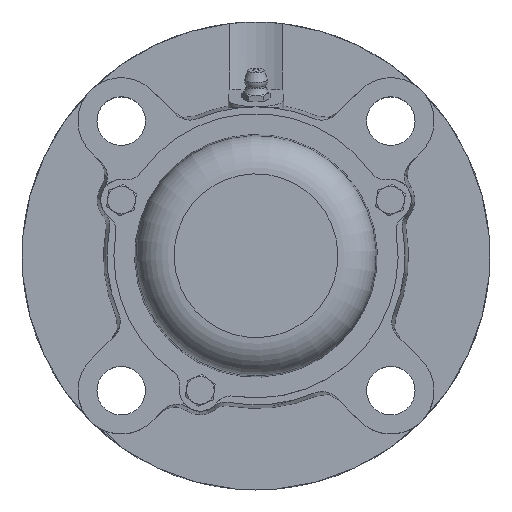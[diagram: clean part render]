
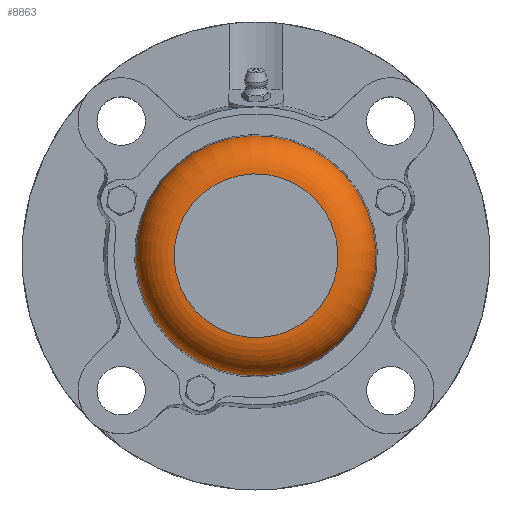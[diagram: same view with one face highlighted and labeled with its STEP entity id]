
A CAD part, top view. The second image highlights one B-rep face of the part: STEP entity #8863.
In plain terms, the highlighted toroidal (fillet/blend) face has major radius 23.628 mm and minor radius 11 mm.
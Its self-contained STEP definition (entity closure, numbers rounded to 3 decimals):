
#8836=CARTESIAN_POINT('',(0.0,0.0,12.));
#8837=DIRECTION('',(0.0,0.0,-1.0));
#8838=DIRECTION('',(-1.0,0.0,0.0));
#8839=AXIS2_PLACEMENT_3D('',#8836,#8837,#8838);
#8840=TOROIDAL_SURFACE('',#8839,23.628,11.0);
#8841=CARTESIAN_POINT('',(-23.628,0.0,23.));
#8842=VERTEX_POINT('',#8841);
#8843=CARTESIAN_POINT('',(0.0,0.0,23.));
#8844=DIRECTION('',(0.0,0.0,-1.0));
#8845=DIRECTION('',(1.0,0.0,0.0));
#8846=AXIS2_PLACEMENT_3D('',#8843,#8844,#8845);
#8847=CIRCLE('',#8846,23.628);
#8848=EDGE_CURVE('',#8842,#8842,#8847,.T.);
#8849=ORIENTED_EDGE('',*,*,#8848,.T.);
#8850=EDGE_LOOP('',(#8849));
#8851=FACE_OUTER_BOUND('',#8850,.T.);
#8852=CARTESIAN_POINT('',(-34.609,0.,12.646));
#8853=VERTEX_POINT('',#8852);
#8854=CARTESIAN_POINT('',(0.0,0.,12.646));
#8855=DIRECTION('',(0.0,0.0,1.0));
#8856=DIRECTION('',(1.0,0.0,0.0));
#8857=AXIS2_PLACEMENT_3D('',#8854,#8855,#8856);
#8858=CIRCLE('',#8857,34.609);
#8859=EDGE_CURVE('',#8853,#8853,#8858,.T.);
#8860=ORIENTED_EDGE('',*,*,#8859,.T.);
#8861=EDGE_LOOP('',(#8860));
#8862=FACE_BOUND('',#8861,.T.);
#8863=ADVANCED_FACE('',(#8851,#8862),#8840,.T.);
